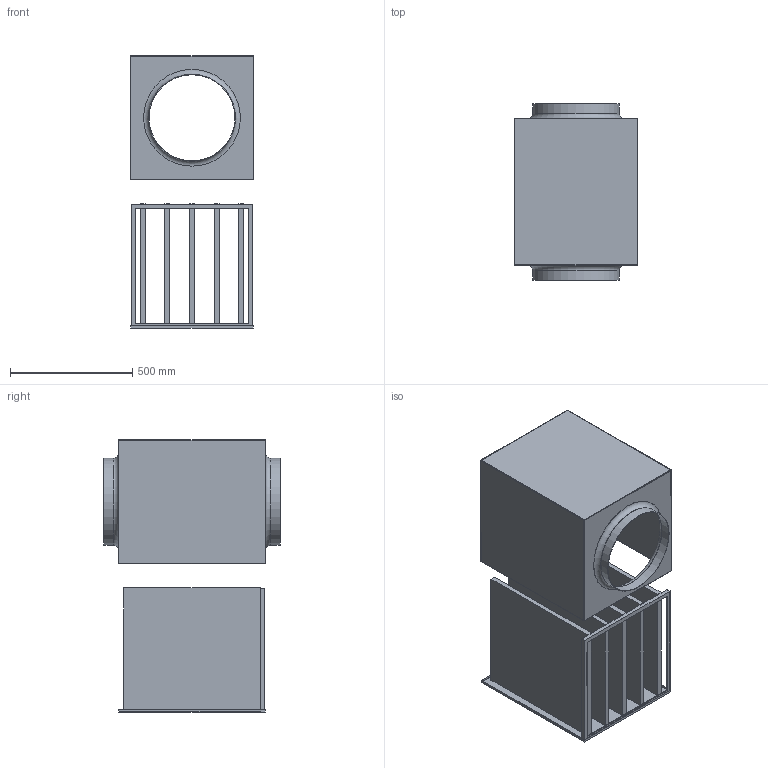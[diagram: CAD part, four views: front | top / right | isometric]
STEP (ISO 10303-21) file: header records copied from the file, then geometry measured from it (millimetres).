
FILE_DESCRIPTION(/* description */ (''),/* implementation_level */ '2;1');
FILE_NAME(/* name */ 'Z:\Output\LFBR_355_F7-08536-001.stp',/* time_stamp */ '2017-07-19T17:49:34+02:00',/* author */ ('engineering1'),/* organization */ (''),/* preprocessor_version */ 'ST-DEVELOPER v16.5',/* originating_system */ 'Autodesk Inventor 2017',/* authorisation */ '');
FILE_SCHEMA (('AUTOMOTIVE_DESIGN { 1 0 10303 214 3 1 1 }'));
Length unit declared in the file: millimetre
Products named in the file (1): LFBR
Bounding box: 504 x 720 x 1111 mm (x, y, z)
Volume: 31868764.3 mm3; surface area: 6322141.1 mm2
Topology: 2 solids, 2 shells, 100 faces, 249 edges, 146 vertices
Faces by surface type: plane 75, cylinder 15, sphere 6, torus 4
Full cylindrical faces by diameter (mm): 351 x2, 355 x2
Entity records: 2953 total; most frequent: CARTESIAN_POINT 488, ORIENTED_EDGE 482, DIRECTION 475, EDGE_CURVE 241, LINE 209, VECTOR 209, VERTEX_POINT 146, AXIS2_PLACEMENT_3D 133
